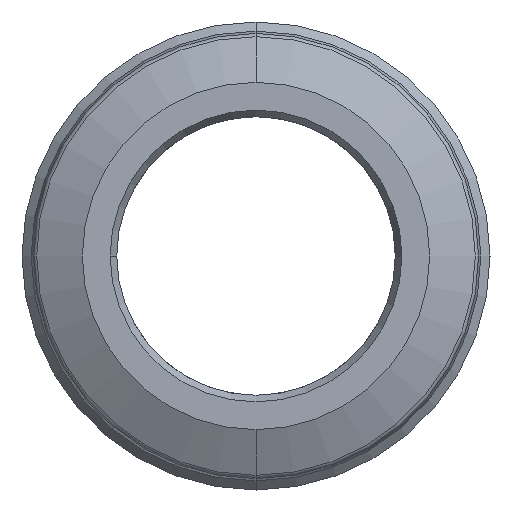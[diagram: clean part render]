
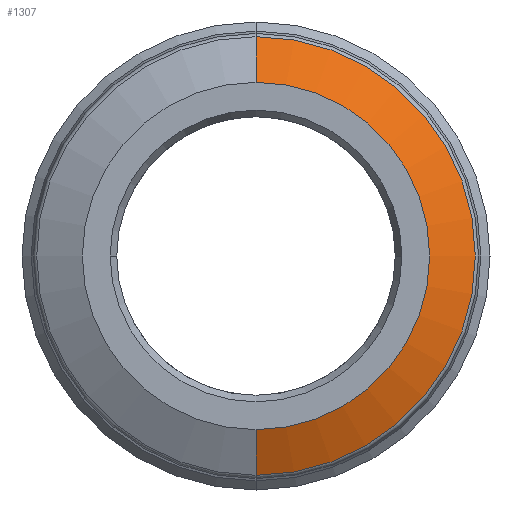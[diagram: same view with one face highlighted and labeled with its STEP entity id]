
A CAD part, front view. The second image highlights one B-rep face of the part: STEP entity #1307.
In plain terms, the highlighted conical face has half-angle 65 degrees and reference radius 9.606 mm.
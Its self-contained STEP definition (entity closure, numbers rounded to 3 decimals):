
#10 = DIRECTION ( 'NONE',  ( 0., 1., 0. ) ) ;
#19 = CARTESIAN_POINT ( 'NONE',  ( 0., -4.367, 0. ) ) ;
#66 = EDGE_LOOP ( 'NONE', ( #4032, #1915, #3180, #525 ) ) ;
#432 = CARTESIAN_POINT ( 'NONE',  ( 0., -4.367, 9.606 ) ) ;
#525 = ORIENTED_EDGE ( 'NONE', *, *, #2855, .F. ) ;
#696 = VECTOR ( 'NONE', #3759, 1000. ) ;
#697 = DIRECTION ( 'NONE',  ( 0., 0., 1. ) ) ;
#862 = EDGE_CURVE ( 'NONE', #3894, #1972, #3231, .T. ) ;
#873 = DIRECTION ( 'NONE',  ( 0., 0.423, 0.906 ) ) ;
#926 = DIRECTION ( 'NONE',  ( 0., 0., 1. ) ) ;
#1277 = CONICAL_SURFACE ( 'NONE', #2120, 9.606, 1.134 ) ;
#1307 = ADVANCED_FACE ( 'NONE', ( #1674 ), #1277, .T. ) ;
#1378 = CARTESIAN_POINT ( 'NONE',  ( 0., -4.367, -9.606 ) ) ;
#1603 = DIRECTION ( 'NONE',  ( 0., 1., 0. ) ) ;
#1674 = FACE_OUTER_BOUND ( 'NONE', #66, .T. ) ;
#1915 = ORIENTED_EDGE ( 'NONE', *, *, #2189, .T. ) ;
#1933 = CARTESIAN_POINT ( 'NONE',  ( 0., -5.3, 0. ) ) ;
#1972 = VERTEX_POINT ( 'NONE', #1378 ) ;
#1988 = CARTESIAN_POINT ( 'NONE',  ( 0., -5.3, 7.605 ) ) ;
#2034 = AXIS2_PLACEMENT_3D ( 'NONE', #19, #10, #697 ) ;
#2099 = CARTESIAN_POINT ( 'NONE',  ( 0., -4.367, 9.606 ) ) ;
#2120 = AXIS2_PLACEMENT_3D ( 'NONE', #2807, #1603, #2522 ) ;
#2189 = EDGE_CURVE ( 'NONE', #3118, #1972, #3999, .T. ) ;
#2234 = AXIS2_PLACEMENT_3D ( 'NONE', #1933, #2806, #926 ) ;
#2479 = CIRCLE ( 'NONE', #2234, 7.605 ) ;
#2522 = DIRECTION ( 'NONE',  ( 0., 0., 1. ) ) ;
#2594 = VERTEX_POINT ( 'NONE', #1988 ) ;
#2806 = DIRECTION ( 'NONE',  ( 0., 1., 0. ) ) ;
#2807 = CARTESIAN_POINT ( 'NONE',  ( 0., -4.367, 0. ) ) ;
#2855 = EDGE_CURVE ( 'NONE', #2594, #3894, #3932, .T. ) ;
#2928 = EDGE_CURVE ( 'NONE', #2594, #3118, #2479, .T. ) ;
#3035 = VECTOR ( 'NONE', #873, 1000. ) ;
#3118 = VERTEX_POINT ( 'NONE', #3540 ) ;
#3180 = ORIENTED_EDGE ( 'NONE', *, *, #862, .F. ) ;
#3231 = CIRCLE ( 'NONE', #2034, 9.606 ) ;
#3540 = CARTESIAN_POINT ( 'NONE',  ( 0., -5.3, -7.605 ) ) ;
#3759 = DIRECTION ( 'NONE',  ( 0., 0.423, -0.906 ) ) ;
#3894 = VERTEX_POINT ( 'NONE', #432 ) ;
#3932 = LINE ( 'NONE', #2099, #3035 ) ;
#3999 = LINE ( 'NONE', #4085, #696 ) ;
#4032 = ORIENTED_EDGE ( 'NONE', *, *, #2928, .T. ) ;
#4085 = CARTESIAN_POINT ( 'NONE',  ( 0., -4.367, -9.606 ) ) ;
